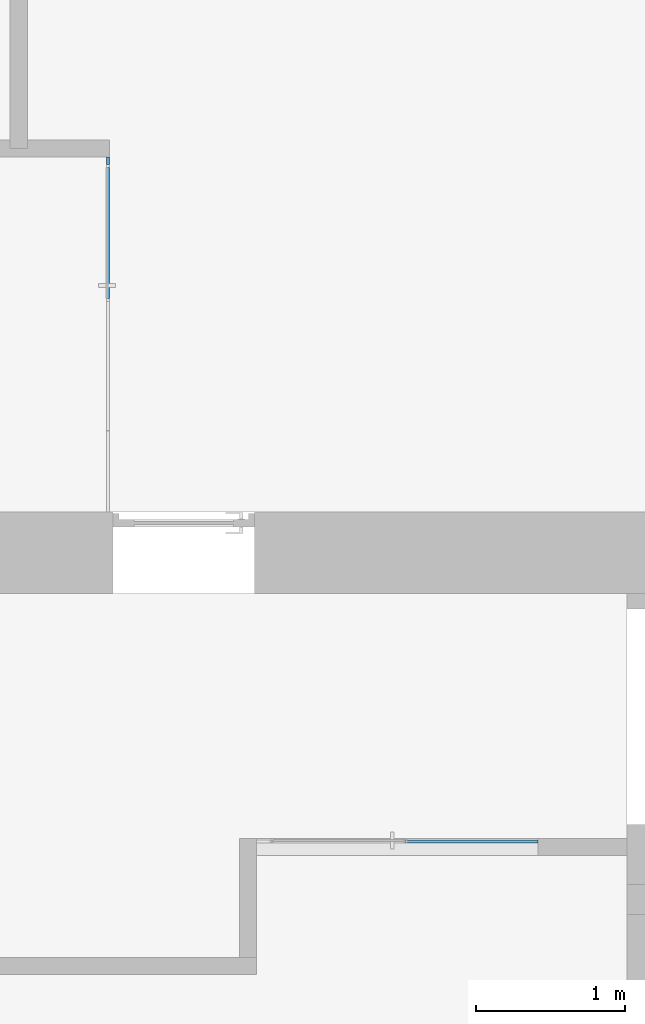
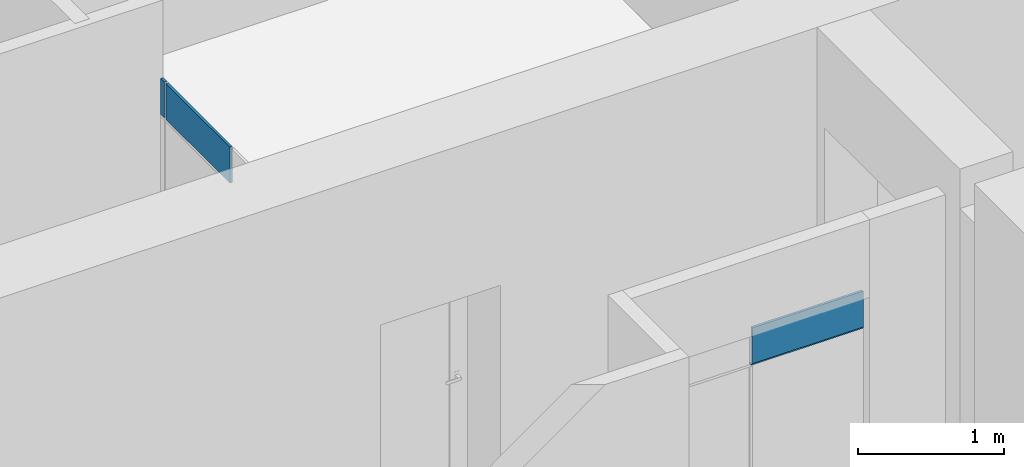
# One storey, part 37 of 66: 4 plates, 2 elements without a shape of their own.
"""IFC2X3 building model written with IfcOpenShell, lengths in millimetres."""

from ifc_helpers import new_model, entity, si_unit, converted_unit, derived_unit, direction, frame, origin, origin_2d_with_axis, place, context, subcontext, project, spatial, rectangle, extrude, source, transform, mapped, material, layer, layer_set, layer_usage, type_object, type_shapes, element, aggregate, save


model = new_model("IFC2X3")

# Units and contexts
model_context = context("Model", 3, precision=0.01, world=origin(), true_north=direction((6.12303176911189e-17, 1.0)))
body_context = subcontext(model_context, "Body", "Model", "MODEL_VIEW")
ifc_project = project(units=[si_unit("LENGTHUNIT", "METRE", prefix="MILLI"), si_unit("AREAUNIT", "SQUARE_METRE"), si_unit("VOLUMEUNIT", "CUBIC_METRE"), converted_unit("PLANEANGLEUNIT", "DEGREE", entity("IfcRatioMeasure", 0.0174532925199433), si_unit("PLANEANGLEUNIT", "RADIAN"), dimensions=[0, 0, 0, 0, 0, 0, 0]), si_unit("MASSUNIT", "GRAM", prefix="KILO"), derived_unit("MASSDENSITYUNIT", [(si_unit("MASSUNIT", "GRAM", prefix="KILO"), 1), (si_unit("LENGTHUNIT", "METRE"), -3)]), si_unit("TIMEUNIT", "SECOND"), si_unit("FREQUENCYUNIT", "HERTZ"), si_unit("THERMODYNAMICTEMPERATUREUNIT", "DEGREE_CELSIUS"), derived_unit("THERMALTRANSMITTANCEUNIT", [(si_unit("MASSUNIT", "GRAM", prefix="KILO"), 1), (si_unit("THERMODYNAMICTEMPERATUREUNIT", "KELVIN"), -1), (si_unit("TIMEUNIT", "SECOND"), -3)]), derived_unit("VOLUMETRICFLOWRATEUNIT", [(si_unit("LENGTHUNIT", "METRE"), 3), (si_unit("TIMEUNIT", "SECOND"), -1)]), si_unit("ELECTRICCURRENTUNIT", "AMPERE"), si_unit("ELECTRICVOLTAGEUNIT", "VOLT"), si_unit("POWERUNIT", "WATT"), si_unit("FORCEUNIT", "NEWTON", prefix="KILO"), si_unit("ILLUMINANCEUNIT", "LUX"), si_unit("LUMINOUSFLUXUNIT", "LUMEN"), si_unit("LUMINOUSINTENSITYUNIT", "CANDELA"), derived_unit("USERDEFINED", [(si_unit("MASSUNIT", "GRAM", prefix="KILO"), -1), (si_unit("LENGTHUNIT", "METRE"), -2), (si_unit("TIMEUNIT", "SECOND"), 3), (si_unit("LUMINOUSFLUXUNIT", "LUMEN"), 1)]), derived_unit("LINEARVELOCITYUNIT", [(si_unit("LENGTHUNIT", "METRE"), 1), (si_unit("TIMEUNIT", "SECOND"), -1)]), si_unit("PRESSUREUNIT", "PASCAL"), derived_unit("USERDEFINED", [(si_unit("LENGTHUNIT", "METRE"), -2), (si_unit("MASSUNIT", "GRAM", prefix="KILO"), 1), (si_unit("TIMEUNIT", "SECOND"), -2)])], contexts=[model_context])

# Site, building, storey
site_placement = place(None, frame((-151.875543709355, 2715.0, 0.0)))
site = spatial("IfcSite", under=ifc_project, at=site_placement, Name="Surface", CompositionType="ELEMENT")
building_placement = place(site_placement, origin())
building = spatial("IfcBuilding", under=site, at=building_placement, CompositionType="ELEMENT")
storey_placement = place(building_placement, frame((0.0, 0.0, 3350.0)))
storey = spatial("IfcBuildingStorey", under=building, at=storey_placement, Name="2 korrus", CompositionType="ELEMENT", Elevation=3350.00000000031)

# Curtain wall, plates
curtain_wall_type_1 = type_object("IfcCurtainWallType", Name="Curtain Wall:Klaassein KLS-11", PredefinedType="NOTDEFINED")
curtain_wall_1_placement = place(storey_placement, frame((0.0, 0.0, -3350.0)))
curtain_wall_1 = element("IfcCurtainWall", 1, at=curtain_wall_1_placement, inside=storey, type_object=curtain_wall_type_1, Name="Curtain Wall:Klaassein KLS-11", ObjectType="Curtain Wall:Klaassein KLS-11")
ifc_material = material(Name="<Unnamed>")
ifc_layer = layer(ifc_material, 20.0)
ifc_layer_set = layer_set([ifc_layer], Name="Curtain Wall:Klaassein KLS-01")
ifc_layer_usage_1 = layer_usage(ifc_layer_set, "AXIS3", "POSITIVE", 0.0)
plate_type_1 = type_object("IfcPlateType", Name="Glazed", PredefinedType="CURTAIN_PANEL", material=ifc_layer_set)
shared_shape_1 = source(origin(), body_context, "Body", "SweptSolid", [
    extrude(rectangle(XDim=20.0, YDim=888.452432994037, at=origin_2d_with_axis()), frame((0.0, 0.0, 0.0), z_axis=(0.0, 0.0, 1.0), x_axis=(0.0, 1.0, 0.0)), (0.0, 0.0, 1.0), 9.99999999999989),
])
type_shapes(plate_type_1, [shared_shape_1])
plate_1_placement = place(curtain_wall_1_placement, frame((29499.790942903, 4345.04493399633, 5440.0), z_axis=(0.0, 0.0, 1.0), x_axis=(-1.0, 0.0, 0.0)))
plate_1 = element("IfcPlate", 2, at=plate_1_placement, type_object=plate_type_1, material=ifc_layer_usage_1, Name="System Panel:Glazed", ObjectType="Glazed", context=body_context, shape_type="MappedRepresentation", body=[
    mapped(shared_shape_1, transform((0.0, 0.0, 0.0), scale=1.0)),
])
ifc_layer_usage_2 = layer_usage(ifc_layer_set, "AXIS3", "POSITIVE", 0.0)
plate_type_2 = type_object("IfcPlateType", Name="Glazed", PredefinedType="CURTAIN_PANEL", material=ifc_layer_set)
shared_shape_2 = source(origin(), body_context, "Body", "SweptSolid", [
    extrude(rectangle(XDim=20.0, YDim=878.452432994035, at=origin_2d_with_axis()), frame((0.0, 0.0, 0.0), z_axis=(0.0, 0.0, 1.0), x_axis=(0.0, 1.0, 0.0)), (0.0, 0.0, 1.0), 299.999999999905),
])
type_shapes(plate_type_2, [shared_shape_2])
plate_2_placement = place(curtain_wall_1_placement, frame((29504.790942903, 4345.04493399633, 5450.0), z_axis=(0.0, 0.0, 1.0), x_axis=(-1.0, 0.0, 0.0)))
plate_2 = element("IfcPlate", 3, at=plate_2_placement, type_object=plate_type_2, material=ifc_layer_usage_2, Name="System Panel:Glazed", ObjectType="Glazed", context=body_context, shape_type="MappedRepresentation", body=[
    mapped(shared_shape_2, transform((0.0, 0.0, 0.0), scale=1.0)),
])
aggregate(curtain_wall_1, [plate_1, plate_2])

curtain_wall_type_2 = type_object("IfcCurtainWallType", Name="Curtain Wall:Klaassein KLS-05", PredefinedType="NOTDEFINED")
curtain_wall_2_placement = place(storey_placement, frame((0.0, 0.0, -3350.0)))
curtain_wall_2 = element("IfcCurtainWall", 4, at=curtain_wall_2_placement, inside=storey, type_object=curtain_wall_type_2, Name="Curtain Wall:Klaassein KLS-05", ObjectType="Curtain Wall:Klaassein KLS-05")
ifc_layer_usage_3 = layer_usage(ifc_layer_set, "AXIS3", "POSITIVE", 0.0)
plate_type_3 = type_object("IfcPlateType", Name="Glazed", PredefinedType="CURTAIN_PANEL", material=ifc_layer_set)
shared_shape_3 = source(origin(), body_context, "Body", "SweptSolid", [
    extrude(rectangle(XDim=20.0, YDim=879.999999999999, at=origin_2d_with_axis()), frame((0.0, 0.0, 0.0), z_axis=(0.0, 0.0, 1.0), x_axis=(0.0, 1.0, 0.0)), (0.0, 0.0, 1.0), 299.999999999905),
])
type_shapes(plate_type_3, [shared_shape_3])
plate_3_placement = place(curtain_wall_2_placement, frame((27053.2859998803, 8434.0, 5450.0), z_axis=(0.0, 0.0, 1.0), x_axis=(0.0, 1.0, 0.0)))
plate_3 = element("IfcPlate", 5, at=plate_3_placement, type_object=plate_type_3, material=ifc_layer_usage_3, Name="System Panel:Glazed", ObjectType="Glazed", context=body_context, shape_type="MappedRepresentation", body=[
    mapped(shared_shape_3, transform((0.0, 0.0, 0.0), scale=1.0)),
])
ifc_layer_usage_4 = layer_usage(ifc_layer_set, "AXIS3", "POSITIVE", 0.0)
plate_type_4 = type_object("IfcPlateType", Name="Glazed", PredefinedType="CURTAIN_PANEL", material=ifc_layer_set)
shared_shape_4 = source(origin(), body_context, "Body", "SweptSolid", [
    extrude(rectangle(XDim=20.0, YDim=51.0000000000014, at=origin_2d_with_axis()), frame((0.0, 0.0, 0.0), z_axis=(0.0, 0.0, 1.0), x_axis=(0.0, 1.0, 0.0)), (0.0, 0.0, 1.0), 299.999999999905),
])
type_shapes(plate_type_4, [shared_shape_4])
plate_4_placement = place(curtain_wall_2_placement, frame((27053.2859998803, 8919.4999999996, 5450.0), z_axis=(0.0, 0.0, 1.0), x_axis=(0.0, 1.0, 0.0)))
plate_4 = element("IfcPlate", 6, at=plate_4_placement, type_object=plate_type_4, material=ifc_layer_usage_4, Name="System Panel:Glazed", ObjectType="Glazed", context=body_context, shape_type="MappedRepresentation", body=[
    mapped(shared_shape_4, transform((0.0, 0.0, 0.0), scale=1.0)),
])
aggregate(curtain_wall_2, [plate_3, plate_4])

save(model, "model.ifc")
